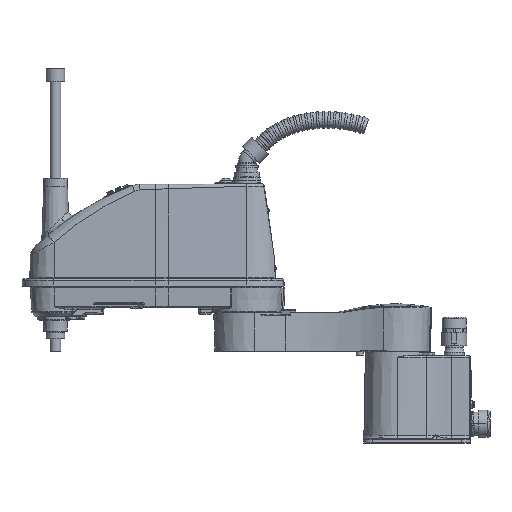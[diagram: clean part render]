
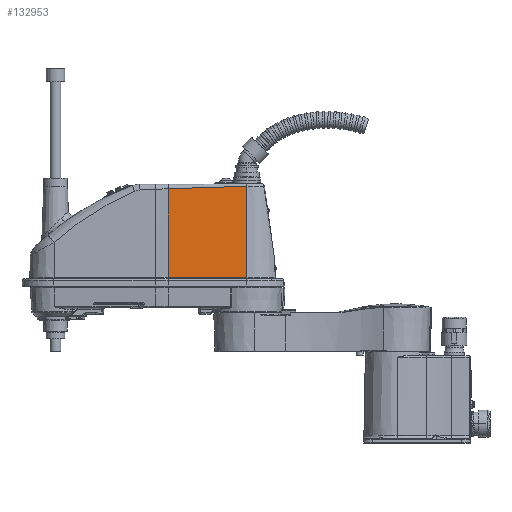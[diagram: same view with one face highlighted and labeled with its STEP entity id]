
A CAD part, top view. The second image highlights one B-rep face of the part: STEP entity #132953.
In plain terms, the highlighted planar face has unit normal (0, 0.035, 0.999).
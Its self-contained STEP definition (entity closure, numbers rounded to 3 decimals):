
#98227=DIRECTION('',(0.,-0.999,0.035));
#98228=VECTOR('',#98227,209.277);
#98229=CARTESIAN_POINT('',(-535.123,598.045,
69.002));
#98230=LINE('',#98229,#98228);
#98289=CARTESIAN_POINT('',(-350.,603.772,
68.802));
#98347=DIRECTION('',(-1.,0.,0.));
#98348=VECTOR('',#98347,185.123);
#98349=CARTESIAN_POINT('',(-350.,388.895,76.305));
#98350=LINE('',#98349,#98348);
#98351=CARTESIAN_POINT('',(-535.123,598.045,
69.002));
#98352=CARTESIAN_POINT('',(-525.944,598.44,
68.988));
#98353=CARTESIAN_POINT('',(-508.634,599.19,
68.962));
#98354=CARTESIAN_POINT('',(-484.182,600.181,
68.927));
#98355=CARTESIAN_POINT('',(-462.523,601.005,
68.898));
#98356=CARTESIAN_POINT('',(-443.123,601.682,
68.875));
#98357=CARTESIAN_POINT('',(-425.367,602.243,
68.855));
#98358=CARTESIAN_POINT('',(-408.797,602.707,
68.839));
#98359=CARTESIAN_POINT('',(-393.142,603.085,
68.826));
#98360=CARTESIAN_POINT('',(-378.227,603.387,
68.815));
#98361=CARTESIAN_POINT('',(-363.926,603.612,
68.807));
#98362=CARTESIAN_POINT('',(-354.585,603.729,
68.803));
#98363=CARTESIAN_POINT('',(-350.,603.772,
68.802));
#98365=DIRECTION('',(0.,-0.999,0.035));
#98366=VECTOR('',#98365,215.007);
#98367=CARTESIAN_POINT('',(-350.,603.772,
68.802));
#98368=LINE('',#98367,#98366);
#106287=CARTESIAN_POINT('',(-350.,388.895,76.305));
#106288=VERTEX_POINT('',#106287);
#106289=CARTESIAN_POINT('',(-535.123,388.895,
76.305));
#106290=VERTEX_POINT('',#106289);
#106308=VERTEX_POINT('',#98289);
#106314=CARTESIAN_POINT('',(-535.123,598.045,
69.002));
#106315=VERTEX_POINT('',#106314);
#132942=CARTESIAN_POINT('',(-442.562,496.334,
72.553));
#132943=DIRECTION('',(0.,0.035,0.999));
#132944=DIRECTION('',(-1.,0.,0.));
#132945=AXIS2_PLACEMENT_3D('',#132942,#132943,#132944);
#132946=PLANE('',#132945);
#132947=ORIENTED_EDGE('',*,*,#132929,.T.);
#132948=ORIENTED_EDGE('',*,*,#132447,.F.);
#132949=ORIENTED_EDGE('',*,*,#132567,.T.);
#132950=ORIENTED_EDGE('',*,*,#132885,.T.);
#132951=EDGE_LOOP('',(#132947,#132948,#132949,#132950));
#132952=FACE_OUTER_BOUND('',#132951,.F.);
#98364=B_SPLINE_CURVE_WITH_KNOTS('',3,(#98351,#98352,#98353,#98354,#98355,
#98356,#98357,#98358,#98359,#98360,#98361,#98362,#98363),.UNSPECIFIED.,.F.,.F.,(
4,1,1,1,1,1,1,1,1,1,4),(0.,0.149,0.281,
0.396,0.5,0.595,0.684,
0.768,0.849,0.926,1.),.UNSPECIFIED.);
#132447=EDGE_CURVE('',#106315,#106290,#98230,.T.);
#132567=EDGE_CURVE('',#106315,#106308,#98364,.T.);
#132885=EDGE_CURVE('',#106308,#106288,#98368,.T.);
#132929=EDGE_CURVE('',#106288,#106290,#98350,.T.);
#132953=ADVANCED_FACE('',(#132952),#132946,.T.);
